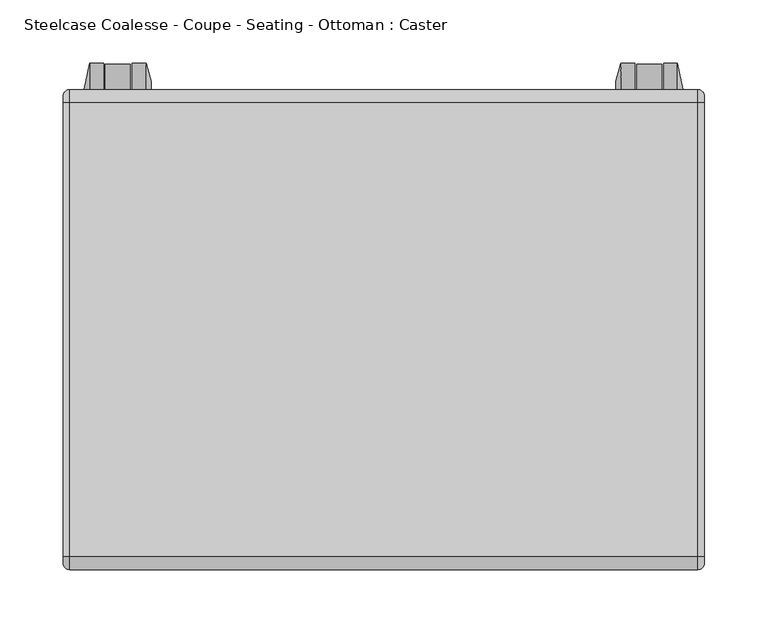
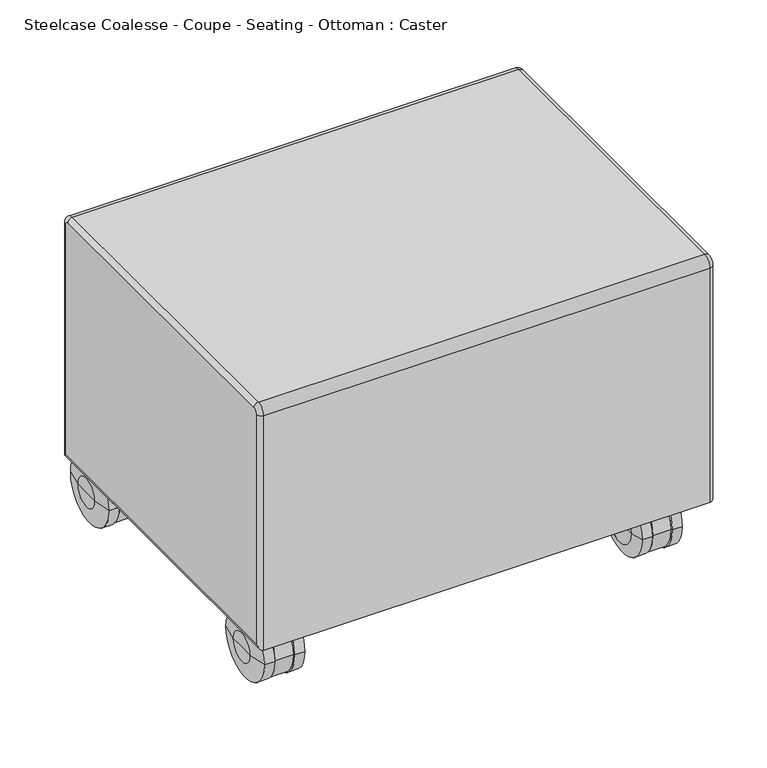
"""IFC4 building model written with IfcOpenShell, lengths in millimetres: furniture geometry, Steelcase Coalesse - Coupe - Seating - Ottoman : Caster."""

from ifc_helpers import new_model, si_unit, point, frame, frame_2d, origin, place, context, project, spatial, polyline, circle_curve, ellipse_curve, trimmed, segment, composite_curve, outline, extrude, source, transform, mapped, element, save
from ifc_brep_helpers import plane_surface, cylinder_surface, revolved_surface, advanced_brep


def steelcase_coalesse_coupe_seating_ottoman_caster_816df8f0(model_context):
    return source(origin(), model_context, "Body", "SolidModel", [
        advanced_brep(
        [(-479.7314192, 275.438904, 37.6062679), (-479.7314192, 298.4148099, 37.6062679), (-479.7314192, 252.4629982, 37.6062679), (-475.8639047, 312.8485706, 37.6062679), (-475.8639047, 238.0292375, 37.6062679), (-464.7335936, 312.8485706, 37.6062679), (-464.7335936, 238.0292375, 37.6062679), (-464.7335936, 285.1355505, 37.6062679), (-464.7335936, 265.7422575, 37.6062679), (-463.3416493, 285.1355505, 37.6062679), (-463.3416493, 265.7422575, 37.6062679), (-463.3416493, 311.8935572, 37.6062679), (-463.3416493, 238.9842508, 37.6062679), (-443.4560126, 311.8935572, 37.6062679), (-443.4560126, 238.9842508, 37.6062679), (-443.4560126, 285.1355505, 37.6062679), (-443.4560126, 265.7422575, 37.6062679), (-442.0716297, 285.1355505, 37.6062679), (-442.0716297, 265.7422575, 37.6062679), (-442.0716297, 312.8485706, 37.6062679), (-442.0716297, 238.0292375, 37.6062679), (-431.0035827, 312.8485706, 37.6062679), (-431.0035827, 238.0292375, 37.6062679), (-426.9518889, 292.3173796, 37.6062679), (-426.9518889, 258.5604285, 37.6062679), (-426.9518889, 275.438904, 37.6062679)],
        [
            (0, 1),
            (1, 2, circle_curve(frame((-479.7314192, 275.438904, 37.6062679), z_axis=(-1.0, 0.0, 0.0), x_axis=(0.0, 1.0, 0.0)), 22.9759058)),
            (2, 0),
            (2, 1, circle_curve(frame((-479.7314192, 275.438904, 37.6062679), z_axis=(-1.0, 0.0, 0.0), x_axis=(0.0, 1.0, 0.0)), 22.9759058)),
            (1, 3),
            (3, 4, circle_curve(frame((-475.8639047, 275.438904, 37.6062679), z_axis=(-1.0, 0.0, 0.0), x_axis=(0.0, 1.0, 0.0)), 37.4096666)),
            (4, 2),
            (4, 3, circle_curve(frame((-475.8639047, 275.438904, 37.6062679), z_axis=(-1.0, 0.0, 0.0), x_axis=(0.0, 1.0, 0.0)), 37.4096666)),
            (3, 5),
            (5, 6, circle_curve(frame((-464.7335936, 275.438904, 37.6062679), z_axis=(-1.0, 0.0, 0.0), x_axis=(0.0, 1.0, 0.0)), 37.4096666)),
            (6, 4),
            (6, 5, circle_curve(frame((-464.7335936, 275.438904, 37.6062679), z_axis=(-1.0, 0.0, 0.0), x_axis=(0.0, 1.0, 0.0)), 37.4096666)),
            (5, 7),
            (7, 8, circle_curve(frame((-464.7335936, 275.438904, 37.6062679), z_axis=(-1.0, 0.0, 0.0), x_axis=(0.0, 1.0, 0.0)), 9.6966465)),
            (8, 6),
            (8, 7, circle_curve(frame((-464.7335936, 275.438904, 37.6062679), z_axis=(-1.0, 0.0, 0.0), x_axis=(0.0, 1.0, 0.0)), 9.6966465)),
            (7, 9),
            (9, 10, circle_curve(frame((-463.3416493, 275.438904, 37.6062679), z_axis=(-1.0, 0.0, 0.0), x_axis=(0.0, 1.0, 0.0)), 9.6966465)),
            (10, 8),
            (10, 9, circle_curve(frame((-463.3416493, 275.438904, 37.6062679), z_axis=(-1.0, 0.0, 0.0), x_axis=(0.0, 1.0, 0.0)), 9.6966465)),
            (9, 11),
            (11, 12, circle_curve(frame((-463.3416493, 275.438904, 37.6062679), z_axis=(-1.0, 0.0, 0.0), x_axis=(0.0, 1.0, 0.0)), 36.4546532)),
            (12, 10),
            (12, 11, circle_curve(frame((-463.3416493, 275.438904, 37.6062679), z_axis=(-1.0, 0.0, 0.0), x_axis=(0.0, 1.0, 0.0)), 36.4546532)),
            (11, 13),
            (13, 14, circle_curve(frame((-443.4560126, 275.438904, 37.6062679), z_axis=(-1.0, 0.0, 0.0), x_axis=(0.0, 1.0, 0.0)), 36.4546532)),
            (14, 12),
            (14, 13, circle_curve(frame((-443.4560126, 275.438904, 37.6062679), z_axis=(-1.0, 0.0, 0.0), x_axis=(0.0, 1.0, 0.0)), 36.4546532)),
            (13, 15),
            (15, 16, circle_curve(frame((-443.4560126, 275.438904, 37.6062679), z_axis=(-1.0, 0.0, 0.0), x_axis=(0.0, 1.0, 0.0)), 9.6966465)),
            (16, 14),
            (16, 15, circle_curve(frame((-443.4560126, 275.438904, 37.6062679), z_axis=(-1.0, 0.0, 0.0), x_axis=(0.0, 1.0, 0.0)), 9.6966465)),
            (15, 17),
            (17, 18, circle_curve(frame((-442.0716297, 275.438904, 37.6062679), z_axis=(-1.0, 0.0, 0.0), x_axis=(0.0, 1.0, 0.0)), 9.6966465)),
            (18, 16),
            (18, 17, circle_curve(frame((-442.0716297, 275.438904, 37.6062679), z_axis=(-1.0, 0.0, 0.0), x_axis=(0.0, 1.0, 0.0)), 9.6966465)),
            (17, 19),
            (19, 20, circle_curve(frame((-442.0716297, 275.438904, 37.6062679), z_axis=(-1.0, 0.0, 0.0), x_axis=(0.0, 1.0, 0.0)), 37.4096666)),
            (20, 18),
            (20, 19, circle_curve(frame((-442.0716297, 275.438904, 37.6062679), z_axis=(-1.0, 0.0, 0.0), x_axis=(0.0, 1.0, 0.0)), 37.4096666)),
            (19, 21),
            (21, 22, circle_curve(frame((-431.0035827, 275.438904, 37.6062679), z_axis=(-1.0, 0.0, 0.0), x_axis=(0.0, 1.0, 0.0)), 37.4096666)),
            (22, 20),
            (22, 21, circle_curve(frame((-431.0035827, 275.438904, 37.6062679), z_axis=(-1.0, 0.0, 0.0), x_axis=(0.0, 1.0, 0.0)), 37.4096666)),
            (21, 23),
            (23, 24, circle_curve(frame((-426.9518889, 275.438904, 37.6062679), z_axis=(-1.0, 0.0, 0.0), x_axis=(0.0, 1.0, 0.0)), 16.8784756)),
            (24, 22),
            (24, 23, circle_curve(frame((-426.9518889, 275.438904, 37.6062679), z_axis=(-1.0, 0.0, 0.0), x_axis=(0.0, 1.0, 0.0)), 16.8784756)),
            (23, 25),
            (25, 24),
        ],
        [
            plane_surface(frame((-479.7314192, 275.438904, 37.6062679), z_axis=(-1.0, 0.0, 0.0), x_axis=(0.0, 1.0, 0.0))),
            revolved_surface(polyline([(-475.8639047, 312.8485706, 37.6062679), (-479.7314192, 298.4148099, 37.6062679)]), (-429.4118301, 275.438904, 37.6062679), (-1.0, 0.0, 0.0)),
            cylinder_surface(frame((-429.4118301, 275.438904, 37.6062679), z_axis=(-1.0, 0.0, 0.0), x_axis=(0.0, 1.0, 0.0)), 37.4096666),
            plane_surface(frame((-464.7335936, 275.438904, 37.6062679), z_axis=(1.0, 0.0, 0.0), x_axis=(0.0, 1.0, 0.0))),
            cylinder_surface(frame((-429.4118301, 275.438904, 37.6062679), z_axis=(-1.0, 0.0, 0.0), x_axis=(0.0, 1.0, 0.0)), 9.6966465),
            plane_surface(frame((-463.3416493, 275.438904, 37.6062679), z_axis=(-1.0, 0.0, 0.0), x_axis=(0.0, 1.0, 0.0))),
            cylinder_surface(frame((-429.4118301, 275.438904, 37.6062679), z_axis=(-1.0, 0.0, 0.0), x_axis=(0.0, 1.0, 0.0)), 36.4546532),
            plane_surface(frame((-443.4560126, 275.438904, 37.6062679), z_axis=(1.0, 0.0, 0.0), x_axis=(0.0, 1.0, 0.0))),
            plane_surface(frame((-442.0716297, 275.438904, 37.6062679), z_axis=(-1.0, 0.0, 0.0), x_axis=(0.0, 1.0, 0.0))),
            revolved_surface(polyline([(-426.9518889, 292.3173796, 37.6062679), (-431.0035827, 312.8485706, 37.6062679)]), (-429.4118301, 275.438904, 37.6062679), (-1.0, 0.0, 0.0)),
            plane_surface(frame((-426.9518889, 275.438904, 37.6062679), z_axis=(1.0, 0.0, 0.0), x_axis=(0.0, 1.0, 0.0))),
        ],
        [
            (0, [[1, 2, 3]]),
            (0, [[-3, 4, -1]]),
            (1, [[-2, 5, 6, 7]]),
            (1, [[-4, -7, 8, -5]]),
            (2, [[-6, 9, 10, 11]]),
            (2, [[-8, -11, 12, -9]]),
            (3, [[-10, 13, 14, 15]]),
            (3, [[-12, -15, 16, -13]]),
            (4, [[-14, 17, 18, 19]]),
            (4, [[-16, -19, 20, -17]]),
            (5, [[-18, 21, 22, 23]]),
            (5, [[-20, -23, 24, -21]]),
            (6, [[-22, 25, 26, 27]]),
            (6, [[-24, -27, 28, -25]]),
            (7, [[-26, 29, 30, 31]]),
            (7, [[-28, -31, 32, -29]]),
            (4, [[-30, 33, 34, 35]]),
            (4, [[-32, -35, 36, -33]]),
            (8, [[-34, 37, 38, 39]]),
            (8, [[-36, -39, 40, -37]]),
            (2, [[-38, 41, 42, 43]]),
            (2, [[-40, -43, 44, -41]]),
            (9, [[-42, 45, 46, 47]]),
            (9, [[-44, -47, 48, -45]]),
            (10, [[-46, 49, 50]]),
            (10, [[-48, -50, -49]]),
        ],
    ),
        advanced_brep(
        [(-479.7314192, 575.5687971, 37.6062679), (-479.7314192, 598.544703, 37.6062679), (-479.7314192, 552.5928913, 37.6062679), (-475.8639047, 612.9784637, 37.6062679), (-475.8639047, 538.1591306, 37.6062679), (-464.7335936, 612.9784637, 37.6062679), (-464.7335936, 538.1591306, 37.6062679), (-464.7335936, 585.2654436, 37.6062679), (-464.7335936, 565.8721506, 37.6062679), (-463.3416493, 585.2654436, 37.6062679), (-463.3416493, 565.8721506, 37.6062679), (-463.3416493, 612.0234503, 37.6062679), (-463.3416493, 539.114144, 37.6062679), (-443.4560126, 612.0234503, 37.6062679), (-443.4560126, 539.114144, 37.6062679), (-443.4560126, 585.2654436, 37.6062679), (-443.4560126, 565.8721506, 37.6062679), (-442.0716297, 585.2654436, 37.6062679), (-442.0716297, 565.8721506, 37.6062679), (-442.0716297, 612.9784637, 37.6062679), (-442.0716297, 538.1591306, 37.6062679), (-431.0035827, 612.9784637, 37.6062679), (-431.0035827, 538.1591306, 37.6062679), (-426.9518889, 592.4472727, 37.6062679), (-426.9518889, 558.6903216, 37.6062679), (-426.9518889, 575.5687971, 37.6062679)],
        [
            (0, 1),
            (1, 2, circle_curve(frame((-479.7314192, 575.5687971, 37.6062679), z_axis=(-1.0, 0.0, 0.0), x_axis=(0.0, 1.0, 0.0)), 22.9759058)),
            (2, 0),
            (2, 1, circle_curve(frame((-479.7314192, 575.5687971, 37.6062679), z_axis=(-1.0, 0.0, 0.0), x_axis=(0.0, 1.0, 0.0)), 22.9759058)),
            (1, 3),
            (3, 4, circle_curve(frame((-475.8639047, 575.5687971, 37.6062679), z_axis=(-1.0, 0.0, 0.0), x_axis=(0.0, 1.0, 0.0)), 37.4096666)),
            (4, 2),
            (4, 3, circle_curve(frame((-475.8639047, 575.5687971, 37.6062679), z_axis=(-1.0, 0.0, 0.0), x_axis=(0.0, 1.0, 0.0)), 37.4096666)),
            (3, 5),
            (5, 6, circle_curve(frame((-464.7335936, 575.5687971, 37.6062679), z_axis=(-1.0, 0.0, 0.0), x_axis=(0.0, 1.0, 0.0)), 37.4096666)),
            (6, 4),
            (6, 5, circle_curve(frame((-464.7335936, 575.5687971, 37.6062679), z_axis=(-1.0, 0.0, 0.0), x_axis=(0.0, 1.0, 0.0)), 37.4096666)),
            (5, 7),
            (7, 8, circle_curve(frame((-464.7335936, 575.5687971, 37.6062679), z_axis=(-1.0, 0.0, 0.0), x_axis=(0.0, 1.0, 0.0)), 9.6966465)),
            (8, 6),
            (8, 7, circle_curve(frame((-464.7335936, 575.5687971, 37.6062679), z_axis=(-1.0, 0.0, 0.0), x_axis=(0.0, 1.0, 0.0)), 9.6966465)),
            (7, 9),
            (9, 10, circle_curve(frame((-463.3416493, 575.5687971, 37.6062679), z_axis=(-1.0, 0.0, 0.0), x_axis=(0.0, 1.0, 0.0)), 9.6966465)),
            (10, 8),
            (10, 9, circle_curve(frame((-463.3416493, 575.5687971, 37.6062679), z_axis=(-1.0, 0.0, 0.0), x_axis=(0.0, 1.0, 0.0)), 9.6966465)),
            (9, 11),
            (11, 12, circle_curve(frame((-463.3416493, 575.5687971, 37.6062679), z_axis=(-1.0, 0.0, 0.0), x_axis=(0.0, 1.0, 0.0)), 36.4546532)),
            (12, 10),
            (12, 11, circle_curve(frame((-463.3416493, 575.5687971, 37.6062679), z_axis=(-1.0, 0.0, 0.0), x_axis=(0.0, 1.0, 0.0)), 36.4546532)),
            (11, 13),
            (13, 14, circle_curve(frame((-443.4560126, 575.5687971, 37.6062679), z_axis=(-1.0, 0.0, 0.0), x_axis=(0.0, 1.0, 0.0)), 36.4546532)),
            (14, 12),
            (14, 13, circle_curve(frame((-443.4560126, 575.5687971, 37.6062679), z_axis=(-1.0, 0.0, 0.0), x_axis=(0.0, 1.0, 0.0)), 36.4546532)),
            (13, 15),
            (15, 16, circle_curve(frame((-443.4560126, 575.5687971, 37.6062679), z_axis=(-1.0, 0.0, 0.0), x_axis=(0.0, 1.0, 0.0)), 9.6966465)),
            (16, 14),
            (16, 15, circle_curve(frame((-443.4560126, 575.5687971, 37.6062679), z_axis=(-1.0, 0.0, 0.0), x_axis=(0.0, 1.0, 0.0)), 9.6966465)),
            (15, 17),
            (17, 18, circle_curve(frame((-442.0716297, 575.5687971, 37.6062679), z_axis=(-1.0, 0.0, 0.0), x_axis=(0.0, 1.0, 0.0)), 9.6966465)),
            (18, 16),
            (18, 17, circle_curve(frame((-442.0716297, 575.5687971, 37.6062679), z_axis=(-1.0, 0.0, 0.0), x_axis=(0.0, 1.0, 0.0)), 9.6966465)),
            (17, 19),
            (19, 20, circle_curve(frame((-442.0716297, 575.5687971, 37.6062679), z_axis=(-1.0, 0.0, 0.0), x_axis=(0.0, 1.0, 0.0)), 37.4096666)),
            (20, 18),
            (20, 19, circle_curve(frame((-442.0716297, 575.5687971, 37.6062679), z_axis=(-1.0, 0.0, 0.0), x_axis=(0.0, 1.0, 0.0)), 37.4096666)),
            (19, 21),
            (21, 22, circle_curve(frame((-431.0035827, 575.5687971, 37.6062679), z_axis=(-1.0, 0.0, 0.0), x_axis=(0.0, 1.0, 0.0)), 37.4096666)),
            (22, 20),
            (22, 21, circle_curve(frame((-431.0035827, 575.5687971, 37.6062679), z_axis=(-1.0, 0.0, 0.0), x_axis=(0.0, 1.0, 0.0)), 37.4096666)),
            (21, 23),
            (23, 24, circle_curve(frame((-426.9518889, 575.5687971, 37.6062679), z_axis=(-1.0, 0.0, 0.0), x_axis=(0.0, 1.0, 0.0)), 16.8784756)),
            (24, 22),
            (24, 23, circle_curve(frame((-426.9518889, 575.5687971, 37.6062679), z_axis=(-1.0, 0.0, 0.0), x_axis=(0.0, 1.0, 0.0)), 16.8784756)),
            (23, 25),
            (25, 24),
        ],
        [
            plane_surface(frame((-479.7314192, 575.5687971, 37.6062679), z_axis=(-1.0, 0.0, 0.0), x_axis=(0.0, 1.0, 0.0))),
            revolved_surface(polyline([(-475.8639047, 612.9784637, 37.6062679), (-479.7314192, 598.544703, 37.6062679)]), (-429.4118301, 575.5687971, 37.6062679), (-1.0, 0.0, 0.0)),
            cylinder_surface(frame((-429.4118301, 575.5687971, 37.6062679), z_axis=(-1.0, 0.0, 0.0), x_axis=(0.0, 1.0, 0.0)), 37.4096666),
            plane_surface(frame((-464.7335936, 575.5687971, 37.6062679), z_axis=(1.0, 0.0, 0.0), x_axis=(0.0, 1.0, 0.0))),
            cylinder_surface(frame((-429.4118301, 575.5687971, 37.6062679), z_axis=(-1.0, 0.0, 0.0), x_axis=(0.0, 1.0, 0.0)), 9.6966465),
            plane_surface(frame((-463.3416493, 575.5687971, 37.6062679), z_axis=(-1.0, 0.0, 0.0), x_axis=(0.0, 1.0, 0.0))),
            cylinder_surface(frame((-429.4118301, 575.5687971, 37.6062679), z_axis=(-1.0, 0.0, 0.0), x_axis=(0.0, 1.0, 0.0)), 36.4546532),
            plane_surface(frame((-443.4560126, 575.5687971, 37.6062679), z_axis=(1.0, 0.0, 0.0), x_axis=(0.0, 1.0, 0.0))),
            plane_surface(frame((-442.0716297, 575.5687971, 37.6062679), z_axis=(-1.0, 0.0, 0.0), x_axis=(0.0, 1.0, 0.0))),
            revolved_surface(polyline([(-426.9518889, 592.4472727, 37.6062679), (-431.0035827, 612.9784637, 37.6062679)]), (-429.4118301, 575.5687971, 37.6062679), (-1.0, 0.0, 0.0)),
            plane_surface(frame((-426.9518889, 575.5687971, 37.6062679), z_axis=(1.0, 0.0, 0.0), x_axis=(0.0, 1.0, 0.0))),
        ],
        [
            (0, [[1, 2, 3]]),
            (0, [[-3, 4, -1]]),
            (1, [[-2, 5, 6, 7]]),
            (1, [[-4, -7, 8, -5]]),
            (2, [[-6, 9, 10, 11]]),
            (2, [[-8, -11, 12, -9]]),
            (3, [[-10, 13, 14, 15]]),
            (3, [[-12, -15, 16, -13]]),
            (4, [[-14, 17, 18, 19]]),
            (4, [[-16, -19, 20, -17]]),
            (5, [[-18, 21, 22, 23]]),
            (5, [[-20, -23, 24, -21]]),
            (6, [[-22, 25, 26, 27]]),
            (6, [[-24, -27, 28, -25]]),
            (7, [[-26, 29, 30, 31]]),
            (7, [[-28, -31, 32, -29]]),
            (4, [[-30, 33, 34, 35]]),
            (4, [[-32, -35, 36, -33]]),
            (8, [[-34, 37, 38, 39]]),
            (8, [[-36, -39, 40, -37]]),
            (2, [[-38, 41, 42, 43]]),
            (2, [[-40, -43, 44, -41]]),
            (9, [[-42, 45, 46, 47]]),
            (9, [[-44, -47, 48, -45]]),
            (10, [[-46, 49, 50]]),
            (10, [[-48, -50, -49]]),
        ],
    ),
        advanced_brep(
        [(-848.1044248, 252.4629982, 37.6062679), (-848.1044248, 298.4148099, 37.6062679), (-848.1044248, 275.438904, 37.6062679), (-851.9719393, 238.0292375, 37.6062679), (-851.9719393, 312.8485706, 37.6062679), (-863.1022503, 238.0292375, 37.6062679), (-863.1022503, 312.8485706, 37.6062679), (-863.1022503, 265.7422575, 37.6062679), (-863.1022503, 285.1355505, 37.6062679), (-864.4941947, 265.7422575, 37.6062679), (-864.4941947, 285.1355505, 37.6062679), (-864.4941947, 238.9842508, 37.6062679), (-864.4941947, 311.8935572, 37.6062679), (-884.3798314, 238.9842508, 37.6062679), (-884.3798314, 311.8935572, 37.6062679), (-884.3798314, 265.7422575, 37.6062679), (-884.3798314, 285.1355505, 37.6062679), (-885.7642142, 265.7422575, 37.6062679), (-885.7642142, 285.1355505, 37.6062679), (-885.7642142, 238.0292375, 37.6062679), (-885.7642142, 312.8485706, 37.6062679), (-896.8322613, 238.0292375, 37.6062679), (-896.8322613, 312.8485706, 37.6062679), (-900.8839551, 258.5604285, 37.6062679), (-900.8839551, 292.3173796, 37.6062679), (-900.8839551, 275.438904, 37.6062679)],
        [
            (0, 1, circle_curve(frame((-848.1044248, 275.438904, 37.6062679), z_axis=(1.0, 0.0, 0.0), x_axis=(0.0, 1.0, 0.0)), 22.9759058)),
            (1, 2),
            (2, 0),
            (1, 0, circle_curve(frame((-848.1044248, 275.438904, 37.6062679), z_axis=(1.0, 0.0, 0.0), x_axis=(0.0, 1.0, 0.0)), 22.9759058)),
            (3, 4, circle_curve(frame((-851.9719393, 275.438904, 37.6062679), z_axis=(1.0, 0.0, 0.0), x_axis=(0.0, 1.0, 0.0)), 37.4096666)),
            (4, 1),
            (0, 3),
            (4, 3, circle_curve(frame((-851.9719393, 275.438904, 37.6062679), z_axis=(1.0, 0.0, 0.0), x_axis=(0.0, 1.0, 0.0)), 37.4096666)),
            (5, 6, circle_curve(frame((-863.1022503, 275.438904, 37.6062679), z_axis=(1.0, 0.0, 0.0), x_axis=(0.0, 1.0, 0.0)), 37.4096666)),
            (6, 4),
            (3, 5),
            (6, 5, circle_curve(frame((-863.1022503, 275.438904, 37.6062679), z_axis=(1.0, 0.0, 0.0), x_axis=(0.0, 1.0, 0.0)), 37.4096666)),
            (7, 8, circle_curve(frame((-863.1022503, 275.438904, 37.6062679), z_axis=(1.0, 0.0, 0.0), x_axis=(0.0, 1.0, 0.0)), 9.6966465)),
            (8, 6),
            (5, 7),
            (8, 7, circle_curve(frame((-863.1022503, 275.438904, 37.6062679), z_axis=(1.0, 0.0, 0.0), x_axis=(0.0, 1.0, 0.0)), 9.6966465)),
            (9, 10, circle_curve(frame((-864.4941947, 275.438904, 37.6062679), z_axis=(1.0, 0.0, 0.0), x_axis=(0.0, 1.0, 0.0)), 9.6966465)),
            (10, 8),
            (7, 9),
            (10, 9, circle_curve(frame((-864.4941947, 275.438904, 37.6062679), z_axis=(1.0, 0.0, 0.0), x_axis=(0.0, 1.0, 0.0)), 9.6966465)),
            (11, 12, circle_curve(frame((-864.4941947, 275.438904, 37.6062679), z_axis=(1.0, 0.0, 0.0), x_axis=(0.0, 1.0, 0.0)), 36.4546532)),
            (12, 10),
            (9, 11),
            (12, 11, circle_curve(frame((-864.4941947, 275.438904, 37.6062679), z_axis=(1.0, 0.0, 0.0), x_axis=(0.0, 1.0, 0.0)), 36.4546532)),
            (13, 14, circle_curve(frame((-884.3798314, 275.438904, 37.6062679), z_axis=(1.0, 0.0, 0.0), x_axis=(0.0, 1.0, 0.0)), 36.4546532)),
            (14, 12),
            (11, 13),
            (14, 13, circle_curve(frame((-884.3798314, 275.438904, 37.6062679), z_axis=(1.0, 0.0, 0.0), x_axis=(0.0, 1.0, 0.0)), 36.4546532)),
            (15, 16, circle_curve(frame((-884.3798314, 275.438904, 37.6062679), z_axis=(1.0, 0.0, 0.0), x_axis=(0.0, 1.0, 0.0)), 9.6966465)),
            (16, 14),
            (13, 15),
            (16, 15, circle_curve(frame((-884.3798314, 275.438904, 37.6062679), z_axis=(1.0, 0.0, 0.0), x_axis=(0.0, 1.0, 0.0)), 9.6966465)),
            (17, 18, circle_curve(frame((-885.7642142, 275.438904, 37.6062679), z_axis=(1.0, 0.0, 0.0), x_axis=(0.0, 1.0, 0.0)), 9.6966465)),
            (18, 16),
            (15, 17),
            (18, 17, circle_curve(frame((-885.7642142, 275.438904, 37.6062679), z_axis=(1.0, 0.0, 0.0), x_axis=(0.0, 1.0, 0.0)), 9.6966465)),
            (19, 20, circle_curve(frame((-885.7642142, 275.438904, 37.6062679), z_axis=(1.0, 0.0, 0.0), x_axis=(0.0, 1.0, 0.0)), 37.4096666)),
            (20, 18),
            (17, 19),
            (20, 19, circle_curve(frame((-885.7642142, 275.438904, 37.6062679), z_axis=(1.0, 0.0, 0.0), x_axis=(0.0, 1.0, 0.0)), 37.4096666)),
            (21, 22, circle_curve(frame((-896.8322613, 275.438904, 37.6062679), z_axis=(1.0, 0.0, 0.0), x_axis=(0.0, 1.0, 0.0)), 37.4096666)),
            (22, 20),
            (19, 21),
            (22, 21, circle_curve(frame((-896.8322613, 275.438904, 37.6062679), z_axis=(1.0, 0.0, 0.0), x_axis=(0.0, 1.0, 0.0)), 37.4096666)),
            (23, 24, circle_curve(frame((-900.8839551, 275.438904, 37.6062679), z_axis=(1.0, 0.0, 0.0), x_axis=(0.0, 1.0, 0.0)), 16.8784756)),
            (24, 22),
            (21, 23),
            (24, 23, circle_curve(frame((-900.8839551, 275.438904, 37.6062679), z_axis=(1.0, 0.0, 0.0), x_axis=(0.0, 1.0, 0.0)), 16.8784756)),
            (25, 24),
            (23, 25),
        ],
        [
            plane_surface(frame((-848.1044248, 275.438904, 37.6062679), z_axis=(1.0, 0.0, 0.0), x_axis=(0.0, 1.0, 0.0))),
            revolved_surface(polyline([(-848.1044248, 298.4148099, 37.6062679), (-851.9719393, 312.8485706, 37.6062679)]), (-898.4240138, 275.438904, 37.6062679), (-1.0, 0.0, 0.0)),
            cylinder_surface(frame((-898.4240138, 275.438904, 37.6062679), z_axis=(-1.0, 0.0, 0.0), x_axis=(0.0, 1.0, 0.0)), 37.4096666),
            plane_surface(frame((-863.1022503, 275.438904, 37.6062679), z_axis=(-1.0, 0.0, 0.0), x_axis=(0.0, 1.0, 0.0))),
            cylinder_surface(frame((-898.4240138, 275.438904, 37.6062679), z_axis=(-1.0, 0.0, 0.0), x_axis=(0.0, 1.0, 0.0)), 9.6966465),
            plane_surface(frame((-864.4941947, 275.438904, 37.6062679), z_axis=(1.0, 0.0, 0.0), x_axis=(0.0, 1.0, 0.0))),
            cylinder_surface(frame((-898.4240138, 275.438904, 37.6062679), z_axis=(-1.0, 0.0, 0.0), x_axis=(0.0, 1.0, 0.0)), 36.4546532),
            plane_surface(frame((-884.3798314, 275.438904, 37.6062679), z_axis=(-1.0, 0.0, 0.0), x_axis=(0.0, 1.0, 0.0))),
            plane_surface(frame((-885.7642142, 275.438904, 37.6062679), z_axis=(1.0, 0.0, 0.0), x_axis=(0.0, 1.0, 0.0))),
            revolved_surface(polyline([(-896.8322613, 312.8485706, 37.6062679), (-900.8839551, 292.3173796, 37.6062679)]), (-898.4240138, 275.438904, 37.6062679), (-1.0, 0.0, 0.0)),
            plane_surface(frame((-900.8839551, 275.438904, 37.6062679), z_axis=(-1.0, 0.0, 0.0), x_axis=(0.0, 1.0, 0.0))),
        ],
        [
            (0, [[1, 2, 3]]),
            (0, [[4, -3, -2]]),
            (1, [[5, 6, -1, 7]]),
            (1, [[8, -7, -4, -6]]),
            (2, [[9, 10, -5, 11]]),
            (2, [[12, -11, -8, -10]]),
            (3, [[13, 14, -9, 15]]),
            (3, [[16, -15, -12, -14]]),
            (4, [[17, 18, -13, 19]]),
            (4, [[20, -19, -16, -18]]),
            (5, [[21, 22, -17, 23]]),
            (5, [[24, -23, -20, -22]]),
            (6, [[25, 26, -21, 27]]),
            (6, [[28, -27, -24, -26]]),
            (7, [[29, 30, -25, 31]]),
            (7, [[32, -31, -28, -30]]),
            (4, [[33, 34, -29, 35]]),
            (4, [[36, -35, -32, -34]]),
            (8, [[37, 38, -33, 39]]),
            (8, [[40, -39, -36, -38]]),
            (2, [[41, 42, -37, 43]]),
            (2, [[44, -43, -40, -42]]),
            (9, [[45, 46, -41, 47]]),
            (9, [[48, -47, -44, -46]]),
            (10, [[49, -45, 50]]),
            (10, [[-50, -48, -49]]),
        ],
    ),
        advanced_brep(
        [(-848.1044248, 552.5928913, 37.6062679), (-848.1044248, 598.544703, 37.6062679), (-848.1044248, 575.5687971, 37.6062679), (-851.9719393, 538.1591306, 37.6062679), (-851.9719393, 612.9784637, 37.6062679), (-863.1022503, 538.1591306, 37.6062679), (-863.1022503, 612.9784637, 37.6062679), (-863.1022503, 565.8721506, 37.6062679), (-863.1022503, 585.2654436, 37.6062679), (-864.4941947, 565.8721506, 37.6062679), (-864.4941947, 585.2654436, 37.6062679), (-864.4941947, 539.114144, 37.6062679), (-864.4941947, 612.0234503, 37.6062679), (-884.3798314, 539.114144, 37.6062679), (-884.3798314, 612.0234503, 37.6062679), (-884.3798314, 565.8721506, 37.6062679), (-884.3798314, 585.2654436, 37.6062679), (-885.7642142, 565.8721506, 37.6062679), (-885.7642142, 585.2654436, 37.6062679), (-885.7642142, 538.1591306, 37.6062679), (-885.7642142, 612.9784637, 37.6062679), (-896.8322613, 538.1591306, 37.6062679), (-896.8322613, 612.9784637, 37.6062679), (-900.8839551, 558.6903216, 37.6062679), (-900.8839551, 592.4472727, 37.6062679), (-900.8839551, 575.5687971, 37.6062679)],
        [
            (0, 1, circle_curve(frame((-848.1044248, 575.5687971, 37.6062679), z_axis=(1.0, 0.0, 0.0), x_axis=(0.0, 1.0, 0.0)), 22.9759058)),
            (1, 2),
            (2, 0),
            (1, 0, circle_curve(frame((-848.1044248, 575.5687971, 37.6062679), z_axis=(1.0, 0.0, 0.0), x_axis=(0.0, 1.0, 0.0)), 22.9759058)),
            (3, 4, circle_curve(frame((-851.9719393, 575.5687971, 37.6062679), z_axis=(1.0, 0.0, 0.0), x_axis=(0.0, 1.0, 0.0)), 37.4096666)),
            (4, 1),
            (0, 3),
            (4, 3, circle_curve(frame((-851.9719393, 575.5687971, 37.6062679), z_axis=(1.0, 0.0, 0.0), x_axis=(0.0, 1.0, 0.0)), 37.4096666)),
            (5, 6, circle_curve(frame((-863.1022503, 575.5687971, 37.6062679), z_axis=(1.0, 0.0, 0.0), x_axis=(0.0, 1.0, 0.0)), 37.4096666)),
            (6, 4),
            (3, 5),
            (6, 5, circle_curve(frame((-863.1022503, 575.5687971, 37.6062679), z_axis=(1.0, 0.0, 0.0), x_axis=(0.0, 1.0, 0.0)), 37.4096666)),
            (7, 8, circle_curve(frame((-863.1022503, 575.5687971, 37.6062679), z_axis=(1.0, 0.0, 0.0), x_axis=(0.0, 1.0, 0.0)), 9.6966465)),
            (8, 6),
            (5, 7),
            (8, 7, circle_curve(frame((-863.1022503, 575.5687971, 37.6062679), z_axis=(1.0, 0.0, 0.0), x_axis=(0.0, 1.0, 0.0)), 9.6966465)),
            (9, 10, circle_curve(frame((-864.4941947, 575.5687971, 37.6062679), z_axis=(1.0, 0.0, 0.0), x_axis=(0.0, 1.0, 0.0)), 9.6966465)),
            (10, 8),
            (7, 9),
            (10, 9, circle_curve(frame((-864.4941947, 575.5687971, 37.6062679), z_axis=(1.0, 0.0, 0.0), x_axis=(0.0, 1.0, 0.0)), 9.6966465)),
            (11, 12, circle_curve(frame((-864.4941947, 575.5687971, 37.6062679), z_axis=(1.0, 0.0, 0.0), x_axis=(0.0, 1.0, 0.0)), 36.4546532)),
            (12, 10),
            (9, 11),
            (12, 11, circle_curve(frame((-864.4941947, 575.5687971, 37.6062679), z_axis=(1.0, 0.0, 0.0), x_axis=(0.0, 1.0, 0.0)), 36.4546532)),
            (13, 14, circle_curve(frame((-884.3798314, 575.5687971, 37.6062679), z_axis=(1.0, 0.0, 0.0), x_axis=(0.0, 1.0, 0.0)), 36.4546532)),
            (14, 12),
            (11, 13),
            (14, 13, circle_curve(frame((-884.3798314, 575.5687971, 37.6062679), z_axis=(1.0, 0.0, 0.0), x_axis=(0.0, 1.0, 0.0)), 36.4546532)),
            (15, 16, circle_curve(frame((-884.3798314, 575.5687971, 37.6062679), z_axis=(1.0, 0.0, 0.0), x_axis=(0.0, 1.0, 0.0)), 9.6966465)),
            (16, 14),
            (13, 15),
            (16, 15, circle_curve(frame((-884.3798314, 575.5687971, 37.6062679), z_axis=(1.0, 0.0, 0.0), x_axis=(0.0, 1.0, 0.0)), 9.6966465)),
            (17, 18, circle_curve(frame((-885.7642142, 575.5687971, 37.6062679), z_axis=(1.0, 0.0, 0.0), x_axis=(0.0, 1.0, 0.0)), 9.6966465)),
            (18, 16),
            (15, 17),
            (18, 17, circle_curve(frame((-885.7642142, 575.5687971, 37.6062679), z_axis=(1.0, 0.0, 0.0), x_axis=(0.0, 1.0, 0.0)), 9.6966465)),
            (19, 20, circle_curve(frame((-885.7642142, 575.5687971, 37.6062679), z_axis=(1.0, 0.0, 0.0), x_axis=(0.0, 1.0, 0.0)), 37.4096666)),
            (20, 18),
            (17, 19),
            (20, 19, circle_curve(frame((-885.7642142, 575.5687971, 37.6062679), z_axis=(1.0, 0.0, 0.0), x_axis=(0.0, 1.0, 0.0)), 37.4096666)),
            (21, 22, circle_curve(frame((-896.8322613, 575.5687971, 37.6062679), z_axis=(1.0, 0.0, 0.0), x_axis=(0.0, 1.0, 0.0)), 37.4096666)),
            (22, 20),
            (19, 21),
            (22, 21, circle_curve(frame((-896.8322613, 575.5687971, 37.6062679), z_axis=(1.0, 0.0, 0.0), x_axis=(0.0, 1.0, 0.0)), 37.4096666)),
            (23, 24, circle_curve(frame((-900.8839551, 575.5687971, 37.6062679), z_axis=(1.0, 0.0, 0.0), x_axis=(0.0, 1.0, 0.0)), 16.8784756)),
            (24, 22),
            (21, 23),
            (24, 23, circle_curve(frame((-900.8839551, 575.5687971, 37.6062679), z_axis=(1.0, 0.0, 0.0), x_axis=(0.0, 1.0, 0.0)), 16.8784756)),
            (25, 24),
            (23, 25),
        ],
        [
            plane_surface(frame((-848.1044248, 575.5687971, 37.6062679), z_axis=(1.0, 0.0, 0.0), x_axis=(0.0, 1.0, 0.0))),
            revolved_surface(polyline([(-848.1044248, 598.544703, 37.6062679), (-851.9719393, 612.9784637, 37.6062679)]), (-898.4240138, 575.5687971, 37.6062679), (-1.0, 0.0, 0.0)),
            cylinder_surface(frame((-898.4240138, 575.5687971, 37.6062679), z_axis=(-1.0, 0.0, 0.0), x_axis=(0.0, 1.0, 0.0)), 37.4096666),
            plane_surface(frame((-863.1022503, 575.5687971, 37.6062679), z_axis=(-1.0, 0.0, 0.0), x_axis=(0.0, 1.0, 0.0))),
            cylinder_surface(frame((-898.4240138, 575.5687971, 37.6062679), z_axis=(-1.0, 0.0, 0.0), x_axis=(0.0, 1.0, 0.0)), 9.6966465),
            plane_surface(frame((-864.4941947, 575.5687971, 37.6062679), z_axis=(1.0, 0.0, 0.0), x_axis=(0.0, 1.0, 0.0))),
            cylinder_surface(frame((-898.4240138, 575.5687971, 37.6062679), z_axis=(-1.0, 0.0, 0.0), x_axis=(0.0, 1.0, 0.0)), 36.4546532),
            plane_surface(frame((-884.3798314, 575.5687971, 37.6062679), z_axis=(-1.0, 0.0, 0.0), x_axis=(0.0, 1.0, 0.0))),
            plane_surface(frame((-885.7642142, 575.5687971, 37.6062679), z_axis=(1.0, 0.0, 0.0), x_axis=(0.0, 1.0, 0.0))),
            revolved_surface(polyline([(-896.8322613, 612.9784637, 37.6062679), (-900.8839551, 592.4472727, 37.6062679)]), (-898.4240138, 575.5687971, 37.6062679), (-1.0, 0.0, 0.0)),
            plane_surface(frame((-900.8839551, 575.5687971, 37.6062679), z_axis=(-1.0, 0.0, 0.0), x_axis=(0.0, 1.0, 0.0))),
        ],
        [
            (0, [[1, 2, 3]]),
            (0, [[4, -3, -2]]),
            (1, [[5, 6, -1, 7]]),
            (1, [[8, -7, -4, -6]]),
            (2, [[9, 10, -5, 11]]),
            (2, [[12, -11, -8, -10]]),
            (3, [[13, 14, -9, 15]]),
            (3, [[16, -15, -12, -14]]),
            (4, [[17, 18, -13, 19]]),
            (4, [[20, -19, -16, -18]]),
            (5, [[21, 22, -17, 23]]),
            (5, [[24, -23, -20, -22]]),
            (6, [[25, 26, -21, 27]]),
            (6, [[28, -27, -24, -26]]),
            (7, [[29, 30, -25, 31]]),
            (7, [[32, -31, -28, -30]]),
            (4, [[33, 34, -29, 35]]),
            (4, [[36, -35, -32, -34]]),
            (8, [[37, 38, -33, 39]]),
            (8, [[40, -39, -36, -38]]),
            (2, [[41, 42, -37, 43]]),
            (2, [[44, -43, -40, -42]]),
            (9, [[45, 46, -41, 47]]),
            (9, [[48, -47, -44, -46]]),
            (10, [[49, -45, 50]]),
            (10, [[-50, -48, -49]]),
        ],
    ),
        extrude(outline(composite_curve([segment(trimmed(circle_curve(frame_2d((-874.3697001, 552.922844)), 10.16), [point((-877.2169607, 543.169962))], [point((-871.5224396, 562.675726))], False, "CARTESIAN"), True, "CONTINUOUS"), segment(trimmed(circle_curve(frame_2d((-874.3697001, 552.922844)), 10.16), [point((-871.5224396, 562.675726))], [point((-877.2169607, 543.169962))], False, "CARTESIAN"), True, "CONTINUOUS")], self_intersect=False)), frame((0.0, 0.0, 44.5196491), z_axis=(0.0, 0.0, 1.0), x_axis=(1.0, 0.0, 0.0)), (0.0, 0.0, 1.0), 35.5790213),
        extrude(outline(composite_curve([segment(trimmed(circle_curve(frame_2d((-874.3697001, 252.7929509)), 10.16), [point((-877.2169607, 243.0400689))], [point((-871.5224396, 262.5458329))], False, "CARTESIAN"), True, "CONTINUOUS"), segment(trimmed(circle_curve(frame_2d((-874.3697001, 252.7929509)), 10.16), [point((-871.5224396, 262.5458329))], [point((-877.2169607, 243.0400689))], False, "CARTESIAN"), True, "CONTINUOUS")], self_intersect=False)), frame((0.0, 0.0, 44.5196491), z_axis=(0.0, 0.0, 1.0), x_axis=(1.0, 0.0, 0.0)), (0.0, 0.0, 1.0), 35.5790213),
        extrude(outline(composite_curve([segment(trimmed(circle_curve(frame_2d((-453.4661438, 552.922844)), 10.16), [point((-450.6188832, 543.169962))], [point((-456.3134044, 562.675726))], False, "CARTESIAN"), True, "CONTINUOUS"), segment(trimmed(circle_curve(frame_2d((-453.4661438, 552.922844)), 10.16), [point((-456.3134044, 562.675726))], [point((-450.6188832, 543.169962))], False, "CARTESIAN"), True, "CONTINUOUS")], self_intersect=False)), frame((0.0, 0.0, 44.5196491), z_axis=(0.0, 0.0, 1.0), x_axis=(1.0, 0.0, 0.0)), (0.0, 0.0, 1.0), 35.5790213),
        extrude(outline(composite_curve([segment(trimmed(circle_curve(frame_2d((-453.4661438, 252.7929509)), 10.16), [point((-450.6188832, 243.0400689))], [point((-456.3134044, 262.5458329))], False, "CARTESIAN"), True, "CONTINUOUS"), segment(trimmed(circle_curve(frame_2d((-453.4661438, 252.7929509)), 10.16), [point((-456.3134044, 262.5458329))], [point((-450.6188832, 243.0400689))], False, "CARTESIAN"), True, "CONTINUOUS")], self_intersect=False)), frame((0.0, 0.0, 44.5196491), z_axis=(0.0, 0.0, 1.0), x_axis=(1.0, 0.0, 0.0)), (0.0, 0.0, 1.0), 35.5790213),
        advanced_brep(
        [(-414.8226096, 592.0292413, 352.5869305), (-414.8226096, 581.8692849, 362.7468869), (-409.7426096, 581.8692849, 357.6668869), (-409.7426096, 586.9492413, 352.5869305), (-912.6624158, 592.0292413, 352.5869305), (-912.6624158, 581.8692849, 362.7468869), (-917.7424158, 586.9492413, 352.5869305), (-917.7424158, 581.8692849, 357.6668869), (-409.7426096, 586.9492413, 81.5975451), (-414.8226096, 592.0292413, 76.5175451), (-912.6624158, 592.0292413, 76.5175451), (-917.7424158, 586.9492413, 81.5975451), (-409.7426096, 217.1328034, 81.5975451), (-414.8226096, 212.0528034, 76.5175451), (-912.6624158, 212.0528034, 76.5175451), (-917.7424158, 217.1328034, 81.5975451), (-409.7426096, 217.1328034, 352.5869305), (-414.8226096, 212.0528034, 352.5869305), (-912.6624158, 212.0528034, 352.5869305), (-917.7424158, 217.1328034, 352.5869305), (-409.7426096, 222.2127598, 357.6668869), (-414.8226096, 222.2127598, 362.7468869), (-912.6624158, 222.2127598, 362.7468869), (-917.7424158, 222.2127598, 357.6668869)],
        [
            (0, 1, circle_curve(frame((-414.8226096, 581.8692849, 352.5869305), z_axis=(1.0, 0.0, 0.0), x_axis=(0.0, 0.0, 1.0)), 10.1599564)),
            (1, 2, circle_curve(frame((-414.8226096, 581.8692849, 357.6668869), z_axis=(0.0, 1.0, 0.0), x_axis=(0.0, 0.0, -1.0)), 5.08)),
            (2, 3, circle_curve(frame((-409.7426096, 581.8692849, 352.5869305), z_axis=(-1.0, 0.0, 0.0), x_axis=(0.0, 0.0, 1.0)), 5.0799564)),
            (3, 0, circle_curve(frame((-414.8226096, 586.9492413, 352.5869305), z_axis=(0.0, 0.0, 1.0), x_axis=(0.0, -1.0, 0.0)), 5.08)),
            (0, 4),
            (4, 5, circle_curve(frame((-912.6624158, 581.8692849, 352.5869305), z_axis=(1.0, 0.0, 0.0), x_axis=(0.0, 0.0, 1.0)), 10.1599564)),
            (5, 1),
            (4, 6, circle_curve(frame((-912.6624158, 586.9492413, 352.5869305), z_axis=(0.0, 0.0, 1.0), x_axis=(0.0, -1.0, 0.0)), 5.08)),
            (6, 7, circle_curve(frame((-917.7424158, 581.8692849, 352.5869305), z_axis=(1.0, 0.0, 0.0), x_axis=(0.0, 0.0, 1.0)), 5.0799564)),
            (7, 5, circle_curve(frame((-912.6624158, 581.8692849, 357.6668869), z_axis=(0.0, 1.0, 0.0), x_axis=(0.0, 0.0, -1.0)), 5.08)),
            (3, 8),
            (8, 9, ellipse_curve(frame((-414.8226096, 586.9492413, 81.5975451), z_axis=(0.0, 0.7071067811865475, 0.7071067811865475), x_axis=(0.0, -0.7071067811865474, 0.7071067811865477)), 7.1842049, 5.08)),
            (9, 0),
            (9, 10),
            (10, 4),
            (10, 11, ellipse_curve(frame((-912.6624158, 586.9492413, 81.5975451), z_axis=(0.0, 0.7071067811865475, 0.7071067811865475), x_axis=(0.0, -0.7071067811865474, 0.7071067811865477)), 7.1842049, 5.08)),
            (11, 6),
            (8, 12),
            (12, 13, ellipse_curve(frame((-414.8226096, 217.1328034, 81.5975451), z_axis=(0.0, 0.7071067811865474, -0.7071067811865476), x_axis=(0.0, 0.7071067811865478, 0.7071067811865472)), 7.1842049, 5.08)),
            (13, 9),
            (13, 14),
            (14, 10),
            (14, 15, ellipse_curve(frame((-912.6624158, 217.1328034, 81.5975451), z_axis=(0.0, 0.7071067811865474, -0.7071067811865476), x_axis=(0.0, 0.7071067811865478, 0.7071067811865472)), 7.1842049, 5.08)),
            (15, 11),
            (12, 16),
            (16, 17, circle_curve(frame((-414.8226096, 217.1328034, 352.5869305), z_axis=(0.0, 0.0, -1.0), x_axis=(0.0, 1.0, 0.0)), 5.08)),
            (17, 13),
            (17, 18),
            (18, 14),
            (18, 19, circle_curve(frame((-912.6624158, 217.1328034, 352.5869305), z_axis=(0.0, 0.0, -1.0), x_axis=(0.0, 1.0, 0.0)), 5.08)),
            (19, 15),
            (16, 20, circle_curve(frame((-409.7426096, 222.2127598, 352.5869305), z_axis=(-1.0, 0.0, 0.0), x_axis=(0.0, -1.0, 0.0)), 5.0799564)),
            (20, 21, circle_curve(frame((-414.8226096, 222.2127598, 357.6668869), z_axis=(0.0, -1.0, 0.0), x_axis=(0.0, 0.0, -1.0)), 5.08)),
            (21, 17, circle_curve(frame((-414.8226096, 222.2127598, 352.5869305), z_axis=(1.0, 0.0, 0.0), x_axis=(0.0, -1.0, 0.0)), 10.1599564)),
            (21, 22),
            (22, 18, circle_curve(frame((-912.6624158, 222.2127598, 352.5869305), z_axis=(1.0, 0.0, 0.0), x_axis=(0.0, -1.0, 0.0)), 10.1599564)),
            (22, 23, circle_curve(frame((-912.6624158, 222.2127598, 357.6668869), z_axis=(0.0, -1.0, 0.0), x_axis=(0.0, 0.0, -1.0)), 5.08)),
            (23, 19, circle_curve(frame((-917.7424158, 222.2127598, 352.5869305), z_axis=(1.0, 0.0, 0.0), x_axis=(0.0, -1.0, 0.0)), 5.0799564)),
            (2, 20),
            (1, 21),
            (5, 22),
            (7, 23),
        ],
        [
            revolved_surface(trimmed(ellipse_curve(frame((-414.8226096, 581.8692849, 357.6668869), z_axis=(0.0, -1.0, 0.0), x_axis=(0.0, 0.0, -1.0)), 5.08, 5.08), [point((-409.7426096, 581.8692849, 357.6668869))], [point((-414.8226096, 581.8692849, 362.7468869))], True, "CARTESIAN"), (-663.917922, 581.8692849, 352.5869305), (-1.0, 0.0, 0.0)),
            cylinder_surface(frame((-663.917922, 581.8692849, 352.5869305), z_axis=(-1.0, 0.0, 0.0), x_axis=(0.0, 0.0, 1.0)), 10.1599564),
            revolved_surface(trimmed(ellipse_curve(frame((-912.6624158, 581.8692849, 357.6668869), z_axis=(0.0, -1.0, 0.0), x_axis=(0.0, 0.0, -1.0)), 5.08, 5.08), [point((-912.6624158, 581.8692849, 362.7468869))], [point((-917.7424158, 581.8692849, 357.6668869))], True, "CARTESIAN"), (-663.917922, 581.8692849, 352.5869305), (-1.0, 0.0, 0.0)),
            cylinder_surface(frame((-414.8226096, 586.9492413, 352.5869305), z_axis=(0.0, 0.0, 1.0), x_axis=(0.0, -1.0, 0.0)), 5.08),
            plane_surface(frame((-414.8226096, 592.0292413, 352.5869305), z_axis=(0.0, 1.0, 0.0), x_axis=(0.0, 0.0, -1.0))),
            cylinder_surface(frame((-912.6624158, 586.9492413, 352.5869305), z_axis=(0.0, 0.0, 1.0), x_axis=(0.0, -1.0, 0.0)), 5.08),
            cylinder_surface(frame((-414.8226096, 584.4092849, 81.5975451), z_axis=(0.0, 1.0, 0.0), x_axis=(0.0, 0.0, 1.0)), 5.08),
            plane_surface(frame((-414.8226096, 592.0292413, 76.5175451), z_axis=(0.0, 0.0, -1.0), x_axis=(0.0, -1.0, 0.0))),
            cylinder_surface(frame((-912.6624158, 584.4092849, 81.5975451), z_axis=(0.0, 1.0, 0.0), x_axis=(0.0, 0.0, 1.0)), 5.08),
            cylinder_surface(frame((-414.8226096, 217.1328034, 84.1375015), z_axis=(0.0, 0.0, -1.0), x_axis=(0.0, 1.0, 0.0)), 5.08),
            plane_surface(frame((-414.8226096, 212.0528034, 76.5175451), z_axis=(0.0, -1.0, 0.0), x_axis=(0.0, 0.0, 1.0))),
            cylinder_surface(frame((-912.6624158, 217.1328034, 84.1375015), z_axis=(0.0, 0.0, -1.0), x_axis=(0.0, 1.0, 0.0)), 5.08),
            revolved_surface(trimmed(ellipse_curve(frame((-414.8226096, 217.1328034, 352.5869305), z_axis=(0.0, 0.0, -1.0), x_axis=(0.0, 1.0, 0.0)), 5.08, 5.08), [point((-409.7426096, 217.1328034, 352.5869305))], [point((-414.8226096, 212.0528034, 352.5869305))], True, "CARTESIAN"), (-663.917922, 222.2127598, 352.5869305), (-1.0, 0.0, 0.0)),
            cylinder_surface(frame((-663.917922, 222.2127598, 352.5869305), z_axis=(-1.0, 0.0, 0.0), x_axis=(0.0, -1.0, 0.0)), 10.1599564),
            revolved_surface(trimmed(ellipse_curve(frame((-912.6624158, 217.1328034, 352.5869305), z_axis=(0.0, 0.0, -1.0), x_axis=(0.0, 1.0, 0.0)), 5.08, 5.08), [point((-912.6624158, 212.0528034, 352.5869305))], [point((-917.7424158, 217.1328034, 352.5869305))], True, "CARTESIAN"), (-663.917922, 222.2127598, 352.5869305), (-1.0, 0.0, 0.0)),
            plane_surface(frame((-409.7426096, 222.2127598, 355.1269305), z_axis=(1.0, 0.0, 0.0), x_axis=(0.0, 1.0, 0.0))),
            cylinder_surface(frame((-414.8226096, 222.2127598, 357.6668869), z_axis=(0.0, -1.0, 0.0), x_axis=(0.0, 0.0, -1.0)), 5.08),
            plane_surface(frame((-414.8226096, 222.2127598, 362.7468869), z_axis=(0.0, 0.0, 1.0), x_axis=(0.0, 1.0, 0.0))),
            cylinder_surface(frame((-912.6624158, 222.2127598, 357.6668869), z_axis=(0.0, -1.0, 0.0), x_axis=(0.0, 0.0, -1.0)), 5.08),
            plane_surface(frame((-917.7424158, 222.2127598, 357.6668869), z_axis=(-1.0, 0.0, 0.0), x_axis=(0.0, 1.0, 0.0))),
        ],
        [
            (0, [[1, 2, 3, 4]]),
            (1, [[-1, 5, 6, 7]]),
            (2, [[-6, 8, 9, 10]]),
            (3, [[-4, 11, 12, 13]]),
            (4, [[-5, -13, 14, 15]]),
            (5, [[-8, -15, 16, 17]]),
            (6, [[-12, 18, 19, 20]]),
            (7, [[-14, -20, 21, 22]]),
            (8, [[-16, -22, 23, 24]]),
            (9, [[-19, 25, 26, 27]]),
            (10, [[-21, -27, 28, 29]]),
            (11, [[-23, -29, 30, 31]]),
            (12, [[-26, 32, 33, 34]]),
            (13, [[-28, -34, 35, 36]]),
            (14, [[-30, -36, 37, 38]]),
            (15, [[-3, 39, -32, -25, -18, -11]]),
            (16, [[-2, 40, -33, -39]]),
            (17, [[-7, 41, -35, -40]]),
            (18, [[-10, 42, -37, -41]]),
            (19, [[-9, -17, -24, -31, -38, -42]]),
        ],
    ),
    ])


if __name__ == "__main__":
    model = new_model("IFC4")
    model_context = context("Model", 3, world=origin())
    ifc_project = project(units=[si_unit("LENGTHUNIT", "METRE", prefix="MILLI")], contexts=[model_context])
    site = spatial("IfcSite", under=ifc_project)
    building = spatial("IfcBuilding", under=site)
    placement = place(None, origin())
    steelcase_coalesse_coupe_seating_ottoman_caster_shape = steelcase_coalesse_coupe_seating_ottoman_caster_816df8f0(model_context)
    element("IfcFurniture", 1, ObjectType="Steelcase Coalesse - Coupe - Seating - Ottoman : Caster", at=placement, inside=building, context=model_context, shape_type="MappedRepresentation", body=[
        mapped(steelcase_coalesse_coupe_seating_ottoman_caster_shape, transform((0.0, 0.0, 0.0), x_axis=(1.0, 0.0, 0.0), y_axis=(0.0, 1.0, 0.0), z_axis=(0.0, 0.0, 1.0))),
    ])
    save(model, "model.ifc")
